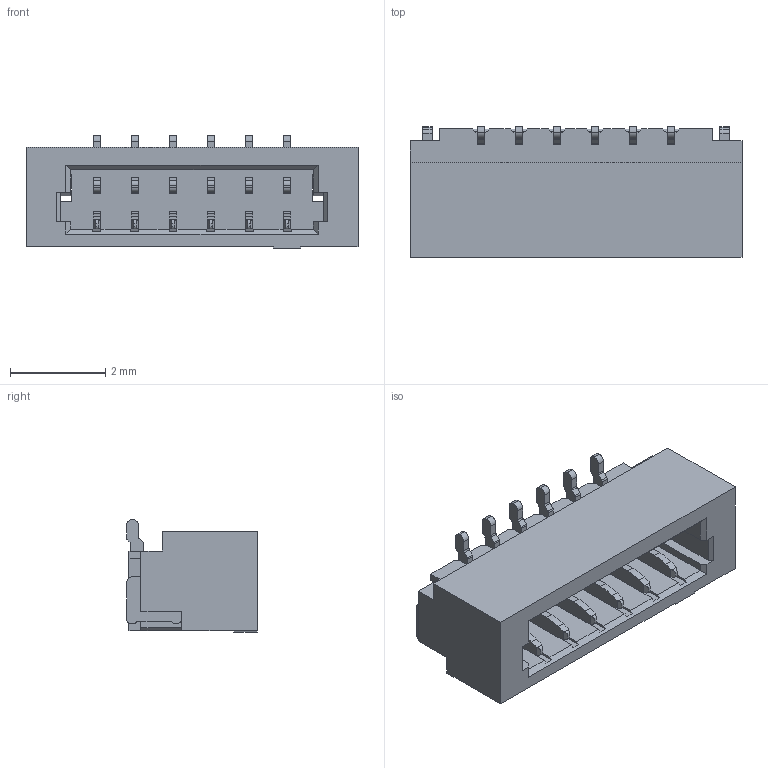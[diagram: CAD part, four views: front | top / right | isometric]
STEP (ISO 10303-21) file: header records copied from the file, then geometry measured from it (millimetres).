
FILE_DESCRIPTION((''),'2;1');
FILE_NAME('SCT0800WVS-06','2023-04-10T16:34:31',('Administrator'),(''),'CREO PARAMETRIC BY PTC INC, 2018050','CREO PARAMETRIC BY PTC INC, 2018050','');
FILE_SCHEMA(('CONFIG_CONTROL_DESIGN'));
Length unit declared in the file: millimetre
Products named in the file (1): SCT0800WVS-06
Bounding box: 6.98 x 2.75 x 2.37 mm (x, y, z)
Volume: 25 mm3; surface area: 147.9 mm2
Topology: 1 solids, 2 shells, 550 faces, 1718 edges, 1135 vertices
Faces by surface type: plane 358, cylinder 192
Entity records: 19188 total; most frequent: CARTESIAN_POINT 3497, ORIENTED_EDGE 3436, DIRECTION 3150, EDGE_CURVE 1718, VECTOR 1330, LINE 1330, VERTEX_POINT 1135, AXIS2_PLACEMENT_3D 910
